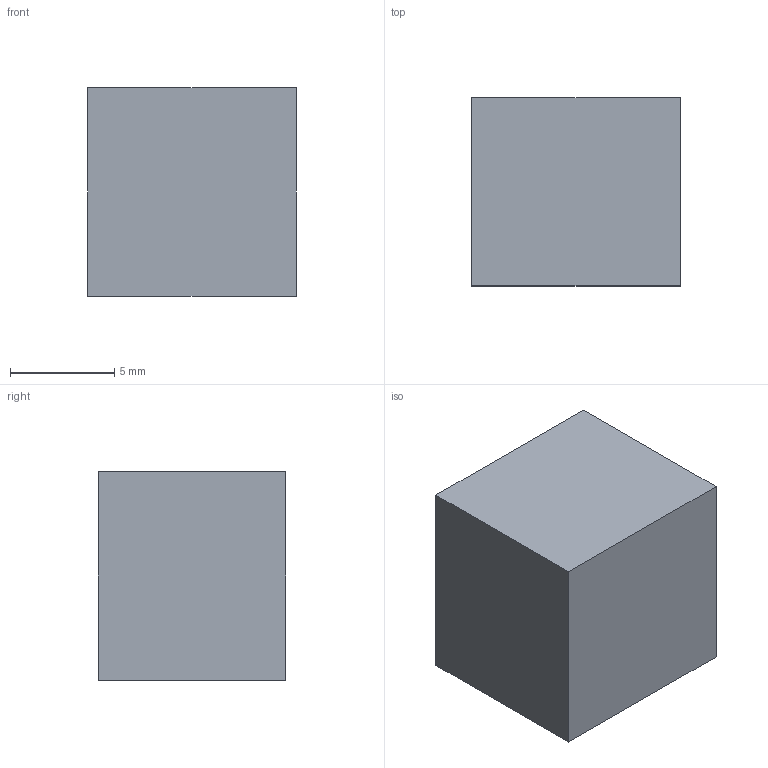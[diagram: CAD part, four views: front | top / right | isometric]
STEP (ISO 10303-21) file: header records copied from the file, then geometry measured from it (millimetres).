
FILE_DESCRIPTION(('Open CASCADE Model'),'2;1');
FILE_NAME('Open CASCADE Shape Model','2026-10-04T02:31:35',('Author'),( 'Open CASCADE'),'Open CASCADE STEP processor 8.0','Open CASCADE 8.0' ,'Unknown');
FILE_SCHEMA(('AUTOMOTIVE_DESIGN { 1 0 10303 214 1 1 1 1 }'));
Length unit declared in the file: millimetre
Products named in the file (1): Open CASCADE STEP translator 8.0 62
Bounding box: 10 x 9 x 10 mm (x, y, z)
Volume: 900 mm3; surface area: 560 mm2
Topology: 1 solids, 1 shells, 6 faces, 12 edges, 8 vertices
Faces by surface type: plane 6
Entity records: 322 total; most frequent: CARTESIAN_POINT 51, DIRECTION 50, LINE 36, VECTOR 36, ORIENTED_EDGE 24, PCURVE 24, DEFINITIONAL_REPRESENTATION 24, EDGE_CURVE 12
